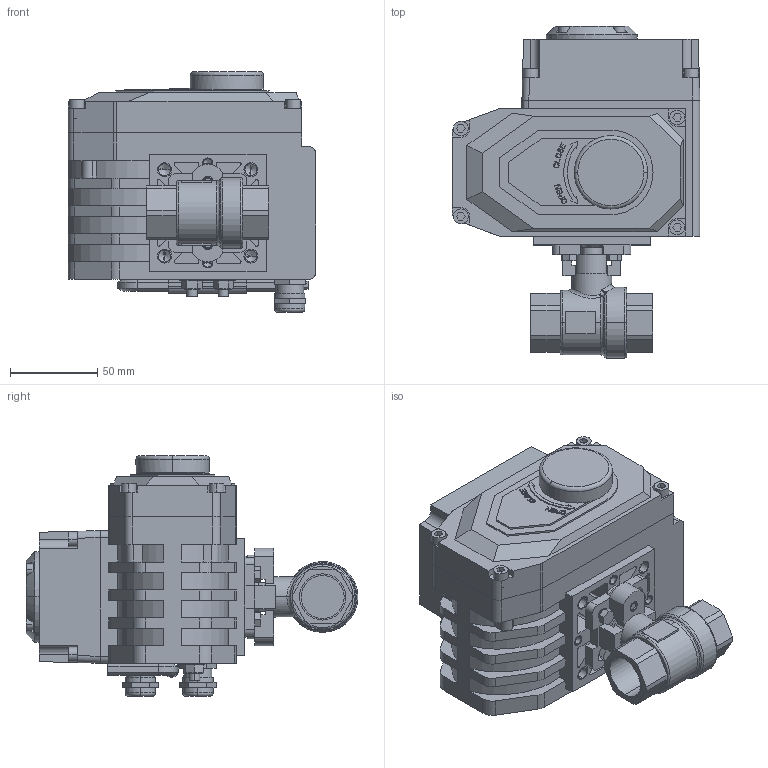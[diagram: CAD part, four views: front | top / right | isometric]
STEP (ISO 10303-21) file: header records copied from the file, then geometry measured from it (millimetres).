
FILE_DESCRIPTION((''),'2;1');
FILE_NAME('BV-21F_EAR_T_ASM','2025-03-02T',('AMD'),(''),'PRO/ENGINEER BY PARAMETRIC TECHNOLOGY CORPORATION, 2008020','PRO/ENGINEER BY PARAMETRIC TECHNOLOGY CORPORATION, 2008020','');
FILE_SCHEMA(('CONFIG_CONTROL_DESIGN'));
Length unit declared in the file: millimetre
Products named in the file (16): KORPUS_KRANA; SHAIBA_KRANA; VINT_KRANA; SB_KRAN_ASM; DET_1; V-11738-M5; V-11738-M4; DET_2; KREPLENIE; KLUCH; DET_3; G-5915-M6; ELECTROPRIVOD_ASM; ELECTROPRIVOD_WITH_DISPLAY_ASM; BOLT; BV-21F_EAR_T_ASM
Assembly tree (30 placements, depth 4):
  BV-21F_EAR_T_ASM
    SB_KRAN_ASM
      KORPUS_KRANA
      SHAIBA_KRANA
      VINT_KRANA  x2
    ELECTROPRIVOD_WITH_DISPLAY_ASM
      ELECTROPRIVOD_ASM
        DET_1
        V-11738-M5  x8
        V-11738-M4  x4
        DET_2
        KREPLENIE
        KLUCH
        DET_3
        G-5915-M6  x2
    BOLT  x4
Bounding box: 142 x 190.25 x 138 mm (x, y, z)
Volume: 1427693.4 mm3; surface area: 183463.8 mm2
Topology: 27 solids, 65 shells, 1295 faces, 3352 edges, 2198 vertices
Faces by surface type: plane 862, cylinder 334, cone 75, torus 12, bspline 10, sphere 2
Entity records: 33456 total; most frequent: CARTESIAN_POINT 6582, DIRECTION 5568, ORIENTED_EDGE 5404, EDGE_CURVE 2750, VECTOR 2048, LINE 2048, VERTEX_POINT 1814, AXIS2_PLACEMENT_3D 1760
